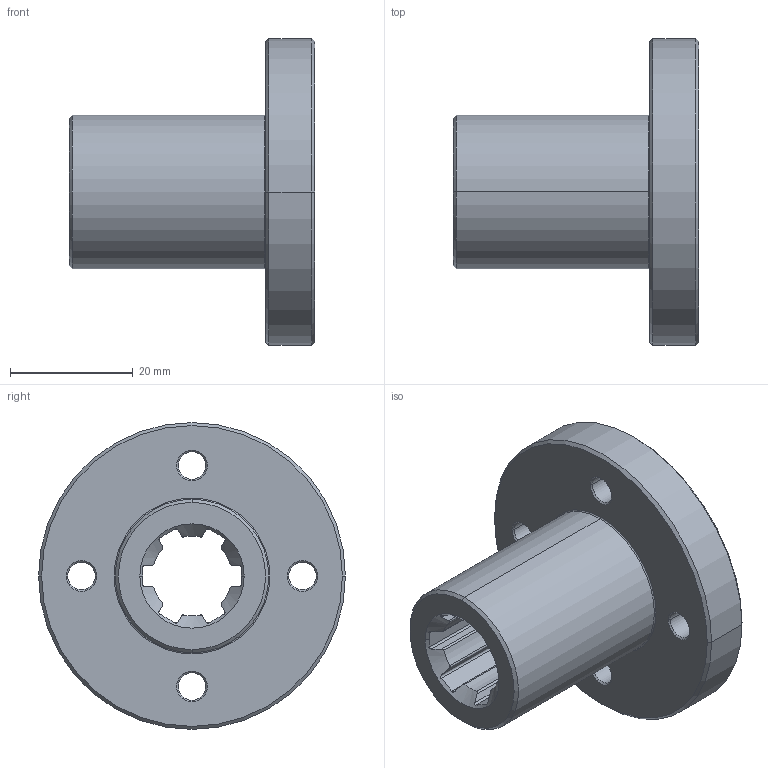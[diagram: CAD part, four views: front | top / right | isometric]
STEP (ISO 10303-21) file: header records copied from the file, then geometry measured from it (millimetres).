
FILE_DESCRIPTION((''),'2;1');
FILE_NAME('396-013-0000_PRT','2024-03-24T',('Brieden'),('ib-brieden'),'PRO/ENGINEER BY PARAMETRIC TECHNOLOGY CORPORATION, 2010160','PRO/ENGINEER BY PARAMETRIC TECHNOLOGY CORPORATION, 2010160','');
FILE_SCHEMA(('AUTOMOTIVE_DESIGN { 1 0 10303 214 1 1 1 1 }'));
Length unit declared in the file: millimetre
Products named in the file (1): 396-013-0000_PRT
Bounding box: 40 x 50 x 50 mm (x, y, z)
Volume: 23475.5 mm3; surface area: 9818.6 mm2
Topology: 1 solids, 1 shells, 98 faces, 254 edges, 160 vertices
Faces by surface type: cylinder 44, cone 28, plane 22, torus 4
Entity records: 4171 total; most frequent: CARTESIAN_POINT 1039, ORIENTED_EDGE 508, DIRECTION 438, PRESENTATION_STYLE_ASSIGNMENT 255, STYLED_ITEM 255, CURVE_STYLE 254, EDGE_CURVE 254, AXIS2_PLACEMENT_3D 174
